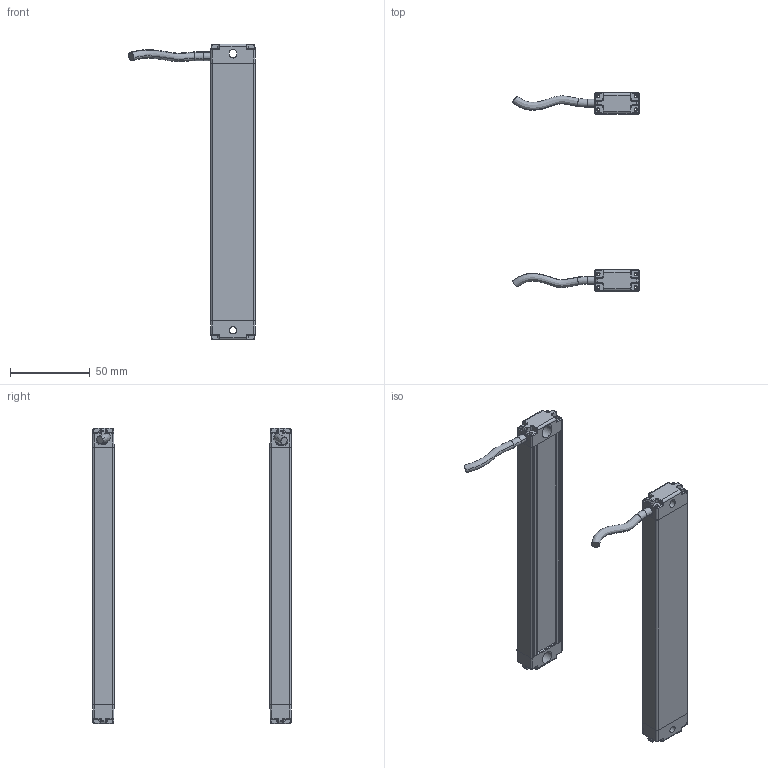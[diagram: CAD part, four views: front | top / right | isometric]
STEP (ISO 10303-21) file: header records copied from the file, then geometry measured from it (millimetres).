
FILE_DESCRIPTION(/* description */ (''),/* implementation_level */ '2;1');
FILE_NAME(/* name */ '0440（13x28w).stp',/* time_stamp */ '2020-07-14T20:03:24+08:00',/* author */ (''),/* organization */ (''),/* preprocessor_version */ 'ST-DEVELOPER v16',/* originating_system */ 'SIEMENS PLM Software NX 10.0',/* authorisation */ '');
FILE_SCHEMA (('AP203_CONFIGURATION_CONTROLLED_3D_DESIGN_OF_MECHANICAL_PARTS_AND_ASSEMBLIES_MIM_LF { 1 0 10303 403 2 1 2}'));
Length unit declared in the file: millimetre
Products named in the file (1): Admi58A03253m86a
Bounding box: 79.6 x 125.02 x 186 mm (x, y, z)
Volume: 57482.6 mm3; surface area: 75523.8 mm2
Topology: 10 solids, 10 shells, 760 faces, 2150 edges, 1419 vertices
Faces by surface type: plane 356, cylinder 312, torus 52, bspline 40
Entity records: 28239 total; most frequent: CARTESIAN_POINT 8703, ORIENTED_EDGE 4300, DIRECTION 3785, EDGE_CURVE 2150, VERTEX_POINT 1419, AXIS2_PLACEMENT_3D 1285, LINE 1215, VECTOR 1215
